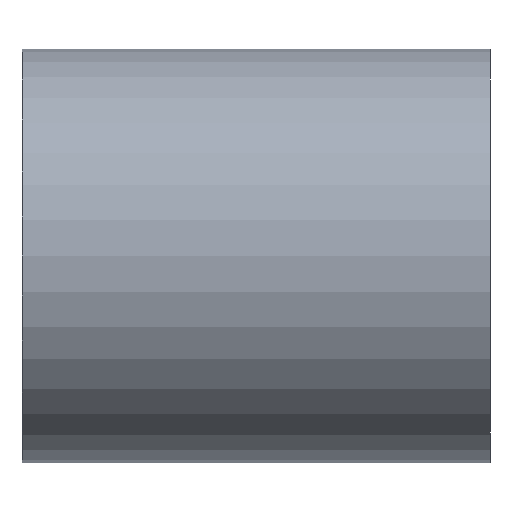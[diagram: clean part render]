
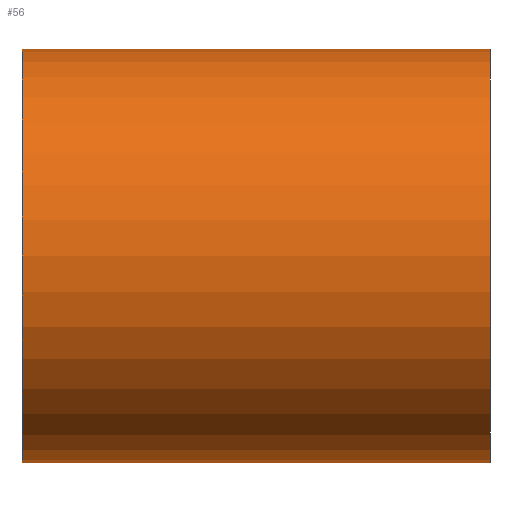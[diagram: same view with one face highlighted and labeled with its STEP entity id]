
A CAD part, front view. The second image highlights one B-rep face of the part: STEP entity #56.
In plain terms, the highlighted cylindrical face has radius 19 mm (diameter 38 mm), a full revolution.
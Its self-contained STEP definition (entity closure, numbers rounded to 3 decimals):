
#19=FACE_BOUND('',#29,.T.);
#23=FACE_OUTER_BOUND('',#28,.T.);
#28=EDGE_LOOP('',(#48));
#29=EDGE_LOOP('',(#49));
#34=CIRCLE('',#65,19.);
#35=CIRCLE('',#67,19.);
#38=VERTEX_POINT('',#94);
#39=VERTEX_POINT('',#97);
#42=EDGE_CURVE('',#38,#38,#34,.T.);
#43=EDGE_CURVE('',#39,#39,#35,.T.);
#48=ORIENTED_EDGE('',*,*,#42,.F.);
#49=ORIENTED_EDGE('',*,*,#43,.F.);
#53=CYLINDRICAL_SURFACE('',#66,19.);
#56=ADVANCED_FACE('',(#23,#19),#53,.T.);
#65=AXIS2_PLACEMENT_3D('',#95,#79,#80);
#66=AXIS2_PLACEMENT_3D('',#96,#81,#82);
#67=AXIS2_PLACEMENT_3D('',#98,#83,#84);
#79=DIRECTION('center_axis',(-1.,0.,0.));
#80=DIRECTION('ref_axis',(0.,-1.,0.));
#81=DIRECTION('center_axis',(1.,0.,0.));
#82=DIRECTION('ref_axis',(0.,-1.,0.));
#83=DIRECTION('center_axis',(1.,0.,0.));
#84=DIRECTION('ref_axis',(0.,-1.,0.));
#94=CARTESIAN_POINT('',(-21.5,19.,0.));
#95=CARTESIAN_POINT('Origin',(-21.5,0.,0.));
#96=CARTESIAN_POINT('Origin',(0.,0.,0.));
#97=CARTESIAN_POINT('',(21.5,19.,0.));
#98=CARTESIAN_POINT('Origin',(21.5,0.,0.));
